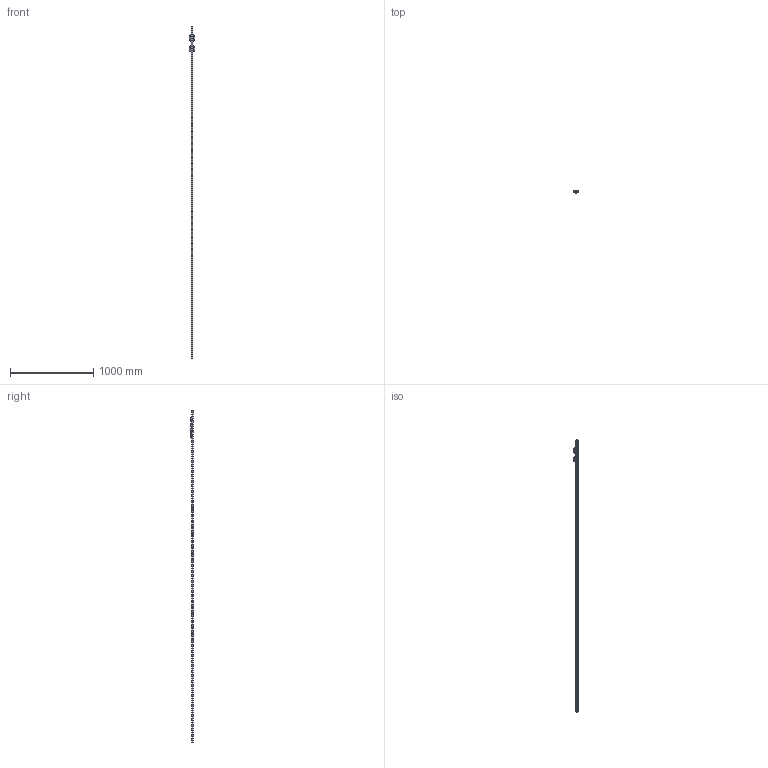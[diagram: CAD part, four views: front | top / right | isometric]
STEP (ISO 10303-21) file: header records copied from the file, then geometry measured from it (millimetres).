
FILE_DESCRIPTION((''),'2;1');
FILE_NAME('BRS25-A0_CUSTOMER_ASM_ASM_ASM','2020-11-23T12:52:47',('TWVS2025'),(''),'CREO PARAMETRIC BY PTC INC, 2018420','CREO PARAMETRIC BY PTC INC, 2018420','');
FILE_SCHEMA(('CONFIG_CONTROL_DESIGN'));
Products named in the file (6): BRR25_CUSTOMER_1_1; BC-BRD25-A0_ASM_ASM_1_ASM; BC-BRC25-A0_ASM_1_1; BRS25-A0_CUSTOMER_ASM_1_ASM_1_ASM; BRS25-A0_CUSTOMER_ASM_ASM_1_ASM; BRS25-A0_CUSTOMER_ASM_ASM_ASM
Assembly tree (5 placements, depth 4):
  BRS25-A0_CUSTOMER_ASM_ASM_ASM
    BRS25-A0_CUSTOMER_ASM_ASM_1_ASM
      BRS25-A0_CUSTOMER_ASM_1_ASM_1_ASM
        BRR25_CUSTOMER_1_1
        BC-BRD25-A0_ASM_ASM_1_ASM
        BC-BRC25-A0_ASM_1_1
Bounding box: 69.95 x 36 x 4000 mm (x, y, z)
Volume: 1780901.8 mm3; surface area: 493794.1 mm2
Topology: 2 solids, 27 shells, 5065 faces, 14569 edges, 9620 vertices
Faces by surface type: plane 2875, cylinder 1418, bspline 240, cone 200, sphere 178, torus 154
Entity records: 233426 total; most frequent: CARTESIAN_POINT 103294, ORIENTED_EDGE 28866, DIRECTION 24502, EDGE_CURVE 14490, VERTEX_POINT 9601, VECTOR 8830, LINE 8830, AXIS2_PLACEMENT_3D 7836
